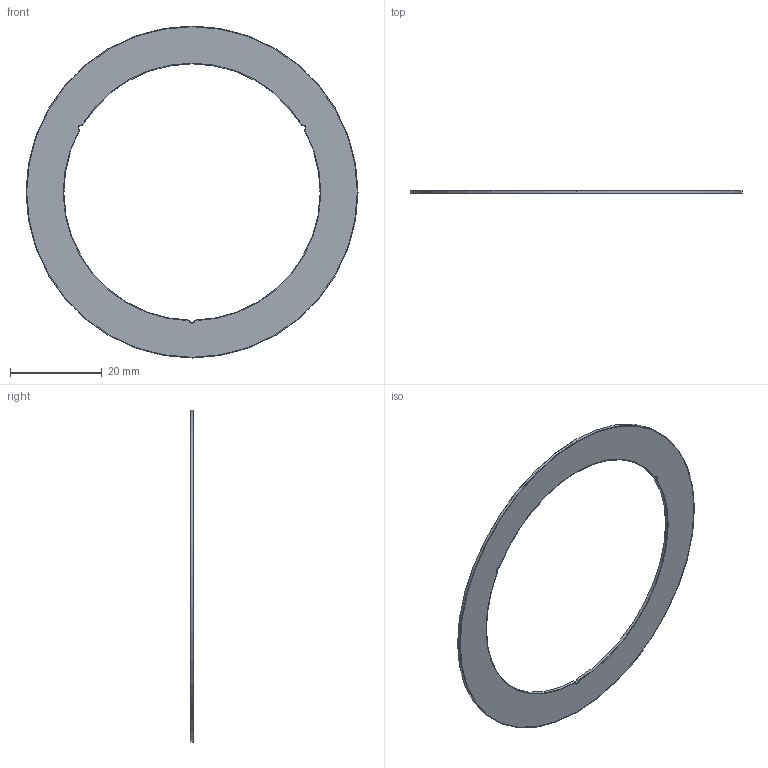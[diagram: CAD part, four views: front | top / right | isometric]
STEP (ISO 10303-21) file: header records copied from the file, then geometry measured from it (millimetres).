
FILE_DESCRIPTION (( 'STEP AP214' ), '1' );
FILE_NAME ('Posic_TPCD07-180.STEP', '2018-07-20T12:14:24', ( '' ), ( '' ), 'SwSTEP 2.0', 'SolidWorks 2018', '' );
FILE_SCHEMA (( 'AUTOMOTIVE_DESIGN' ));
Length unit declared in the file: millimetre
Products named in the file (1): Posic_TPCD07-180
Bounding box: 72.55 x 0.72 x 72.55 mm (x, y, z)
Volume: 1172.2 mm3; surface area: 3718.8 mm2
Topology: 1 solids, 1 shells, 1823 faces, 4380 edges, 2920 vertices
Faces by surface type: plane 1081, cylinder 742
Entity records: 73224 total; most frequent: DIRECTION 9512, CARTESIAN_POINT 9124, ORIENTED_EDGE 8760, EDGE_CURVE 4380, AXIS2_PLACEMENT_3D 3308, VERTEX_POINT 2920, LINE 2896, VECTOR 2896
